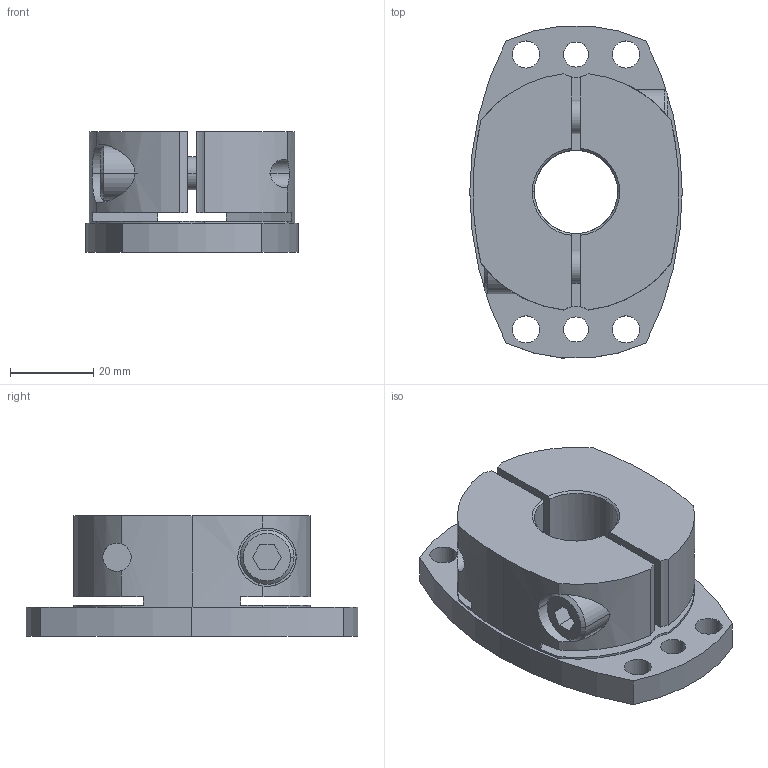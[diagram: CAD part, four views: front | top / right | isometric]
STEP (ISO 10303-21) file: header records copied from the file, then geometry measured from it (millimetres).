
FILE_DESCRIPTION((''),'2;1');
FILE_NAME('SHDB-80B-20.stp','2026-01-28T08:25:43',(''),(''),'AutoCAD STEP 2000i','AutoCAD 2000i',', , ');
FILE_SCHEMA(('CONFIG_CONTROL_DESIGN'));
Length unit declared in the file: millimetre
Products named in the file (2): SHDB-80B-20; 忣兜1
Assembly tree (1 placements, depth 2):
  SHDB-80B-20
    忣兜1
Bounding box: 51 x 79.7 x 29 mm (x, y, z)
Volume: 60690.9 mm3; surface area: 19603.5 mm2
Topology: 1 solids, 1 shells, 102 faces, 280 edges, 184 vertices
Faces by surface type: cylinder 58, plane 34, cone 10
Entity records: 3715 total; most frequent: CARTESIAN_POINT 888, DIRECTION 602, ORIENTED_EDGE 560, EDGE_CURVE 280, AXIS2_PLACEMENT_3D 238, VERTEX_POINT 184, CIRCLE 134, VECTOR 126
